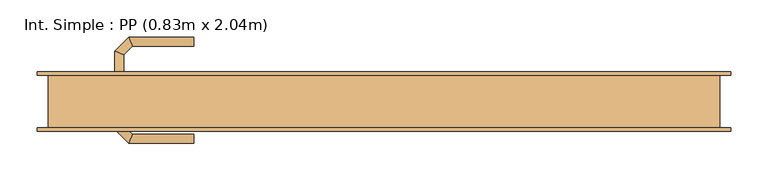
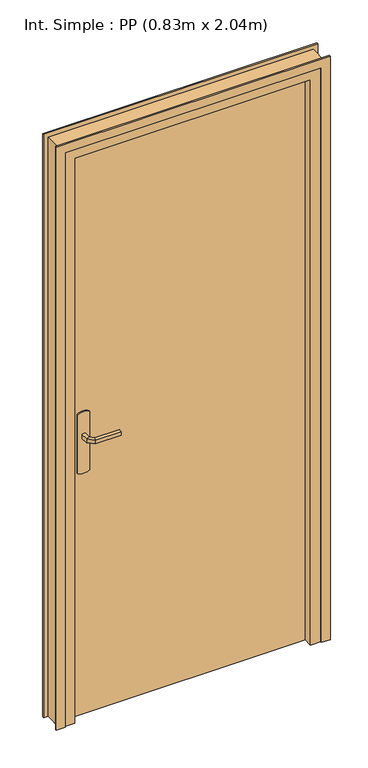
"""IFC4 building model written with IfcOpenShell, lengths in millimetres: door geometry, Int. Simple : PP (0.83m x 2.04m)."""

from ifc_helpers import new_model, si_unit, point, frame, frame_2d, origin, origin_with_axes, place, context, project, spatial, polyline, circle_curve, ellipse_curve, trimmed, segment, composite_curve, outline, extrude, faceted_brep, source, transform, mapped, element, save
from ifc_brep_helpers import plane_surface, cylinder_surface, advanced_brep


def int_simple_pp_0_83m_x_2_04m_a8378473(model_context):
    return source(origin(), model_context, "Body", "SolidModel", [
        extrude(outline(composite_curve([segment(trimmed(circle_curve(frame_2d((904.6410162, -390.0)), 40.0), [point((870.0, -410.0))], [point((870.0, -370.0))], False, "CARTESIAN"), True, "CONTINUOUS"), segment(polyline([(870.0, -370.0), (1080.0, -370.0)]), True, "CONTINUOUS"), segment(trimmed(circle_curve(frame_2d((1045.3589838, -390.0)), 40.0), [point((1080.0, -370.0))], [point((1080.0, -410.0))], False, "CARTESIAN"), True, "CONTINUOUS"), segment(polyline([(1080.0, -410.0), (870.0, -410.0)]), True, "CONTINUOUS")], self_intersect=False)), frame((0.0, 35.0, 0.0), z_axis=(0.0, 1.0, 0.0), x_axis=(0.0, 0.0, 1.0)), (0.0, 0.0, 1.0), 5.0),
        extrude(outline(composite_curve([segment(trimmed(circle_curve(frame_2d((1045.3589838, -390.0)), 40.0), [point((1080.0, -370.0))], [point((1080.0, -410.0))], False, "CARTESIAN"), True, "CONTINUOUS"), segment(polyline([(1080.0, -410.0), (870.0, -410.0)]), True, "CONTINUOUS"), segment(trimmed(circle_curve(frame_2d((904.6410162, -390.0)), 40.0), [point((870.0, -410.0))], [point((870.0, -370.0))], False, "CARTESIAN"), True, "CONTINUOUS"), segment(polyline([(870.0, -370.0), (1080.0, -370.0)]), True, "CONTINUOUS")], self_intersect=False)), frame((0.0, -10.0, 0.0), z_axis=(0.0, 1.0, 0.0), x_axis=(0.0, 0.0, 1.0)), (0.0, 0.0, 1.0), 5.0),
        advanced_brep(
        [(-396.0, 40.0, 1007.0), (-396.0, 40.0, 993.0), (-384.0, 40.0, 993.0), (-384.0, 40.0, 1007.0), (-384.0, 62.680388, 1007.0), (-396.0, 67.6509507, 1007.0), (-384.0, 62.680388, 993.0), (-396.0, 67.6509507, 993.0), (-372.6522273, 74.0281607, 1007.0), (-377.62279, 86.0281607, 1007.0), (-372.6522273, 74.0281607, 993.0), (-377.62279, 86.0281607, 993.0), (-289.9813594, 86.0281607, 1007.0), (-289.9813594, 74.0281607, 1007.0), (-289.9813594, 74.0281607, 993.0), (-289.9813594, 86.0281607, 993.0)],
        [
            (0, 1),
            (1, 2, circle_curve(frame((-390.0, 40.0, 1013.0457722), z_axis=(0.0, -1.0, 0.0), x_axis=(1.0, 0.0, 0.0)), 20.9244589)),
            (2, 3),
            (3, 0, circle_curve(frame((-390.0, 40.0, 986.9542278), z_axis=(0.0, -1.0, 0.0), x_axis=(1.0, 0.0, 0.0)), 20.9244589)),
            (3, 4),
            (4, 5, ellipse_curve(frame((-390.0, 65.1656693, 986.9542278), z_axis=(-0.3826834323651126, -0.9238795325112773, 0.0), x_axis=(0.9238795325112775, -0.38268343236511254, 0.0)), 22.6484711, 20.9244589)),
            (5, 0),
            (2, 6),
            (6, 4),
            (1, 7),
            (7, 6, ellipse_curve(frame((-390.0, 65.1656693, 1013.0457722), z_axis=(-0.3826834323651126, -0.9238795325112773, 0.0), x_axis=(0.9238795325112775, -0.38268343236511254, 0.0)), 22.6484711, 20.9244589)),
            (5, 7),
            (4, 8),
            (8, 9, ellipse_curve(frame((-375.1375086, 80.0281607, 986.9542278), z_axis=(-0.9238795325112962, -0.38268343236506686, 0.0), x_axis=(0.3826834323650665, -0.9238795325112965, 0.0)), 22.6484711, 20.9244589)),
            (9, 5),
            (6, 10),
            (10, 8),
            (7, 11),
            (11, 10, ellipse_curve(frame((-375.1375086, 80.0281607, 1013.0457722), z_axis=(-0.9238795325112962, -0.38268343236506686, 0.0), x_axis=(0.3826834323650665, -0.9238795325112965, 0.0)), 22.6484711, 20.9244589)),
            (9, 11),
            (12, 13, circle_curve(frame((-289.9813594, 80.0281607, 986.9542278), z_axis=(1.0, 0.0, 0.0), x_axis=(0.0, -1.0, 0.0)), 20.9244589)),
            (13, 14),
            (14, 15, circle_curve(frame((-289.9813594, 80.0281607, 1013.0457722), z_axis=(1.0, 0.0, 0.0), x_axis=(0.0, -1.0, 0.0)), 20.9244589)),
            (15, 12),
            (8, 13),
            (12, 9),
            (10, 14),
            (11, 15),
        ],
        [
            plane_surface(frame((-399.2195445, 40.0, 1000.0), z_axis=(0.0, -1.0, 0.0), x_axis=(0.0, 0.0, -1.0))),
            cylinder_surface(frame((-390.0, 40.0, 986.9542278), z_axis=(0.0, -1.0, 0.0), x_axis=(1.0, 0.0, 0.0)), 20.9244589),
            plane_surface(frame((-384.0, 40.0, 1007.0), z_axis=(1.0, 0.0, 0.0), x_axis=(0.0, 1.0, 0.0))),
            cylinder_surface(frame((-390.0, 40.0, 1013.0457722), z_axis=(0.0, -1.0, 0.0), x_axis=(1.0, 0.0, 0.0)), 20.9244589),
            plane_surface(frame((-396.0, 40.0, 993.0), z_axis=(-1.0, 0.0, 0.0), x_axis=(0.0, 1.0, 0.0))),
            cylinder_surface(frame((-390.0, 65.1656693, 986.9542278), z_axis=(-0.7071067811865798, -0.7071067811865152, 0.0), x_axis=(0.7071067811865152, -0.7071067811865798, 0.0)), 20.9244589),
            plane_surface(frame((-384.0, 62.680388, 1007.0), z_axis=(0.7071067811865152, -0.7071067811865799, 0.0), x_axis=(0.7071067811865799, 0.7071067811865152, 0.0))),
            cylinder_surface(frame((-390.0, 65.1656693, 1013.0457722), z_axis=(-0.7071067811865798, -0.7071067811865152, 0.0), x_axis=(0.7071067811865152, -0.7071067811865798, 0.0)), 20.9244589),
            plane_surface(frame((-396.0, 67.6509507, 993.0), z_axis=(-0.7071067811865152, 0.7071067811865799, 0.0), x_axis=(0.7071067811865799, 0.7071067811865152, 0.0))),
            plane_surface(frame((-289.9813594, 80.0281607, 990.7804555), z_axis=(1.0, 0.0, 0.0), x_axis=(0.0, -1.0, 0.0))),
            cylinder_surface(frame((-375.1375086, 80.0281607, 986.9542278), z_axis=(-1.0, 0.0, 0.0), x_axis=(0.0, -1.0, 0.0)), 20.9244589),
            plane_surface(frame((-372.6522273, 74.0281607, 1007.0), z_axis=(0.0, -1.0, 0.0), x_axis=(1.0, 0.0, 0.0))),
            cylinder_surface(frame((-375.1375086, 80.0281607, 1013.0457722), z_axis=(-1.0, 0.0, 0.0), x_axis=(0.0, -1.0, 0.0)), 20.9244589),
            plane_surface(frame((-377.62279, 86.0281607, 993.0), z_axis=(0.0, 1.0, 0.0), x_axis=(1.0, 0.0, 0.0))),
        ],
        [
            (0, [[1, 2, 3, 4]]),
            (1, [[5, 6, 7, -4]]),
            (2, [[8, 9, -5, -3]]),
            (3, [[10, 11, -8, -2]]),
            (4, [[-7, 12, -10, -1]]),
            (5, [[13, 14, 15, -6]]),
            (6, [[16, 17, -13, -9]]),
            (7, [[18, 19, -16, -11]]),
            (8, [[-15, 20, -18, -12]]),
            (9, [[21, 22, 23, 24]]),
            (10, [[25, -21, 26, -14]]),
            (11, [[27, -22, -25, -17]]),
            (12, [[28, -23, -27, -19]]),
            (13, [[-26, -24, -28, -20]]),
        ],
    ),
        advanced_brep(
        [(-384.0, -10.0, 993.0), (-396.0, -10.0, 993.0), (-396.0, -10.0, 1007.0), (-384.0, -10.0, 1007.0), (-384.0, -32.4852045, 1007.0), (-384.0, -32.4852045, 993.0), (-396.0, -37.4557673, 1007.0), (-396.0, -37.4557673, 993.0), (-372.5147186, -43.9704859, 1007.0), (-372.5147186, -43.9704859, 993.0), (-377.4852814, -55.9704859, 1007.0), (-377.4852814, -55.9704859, 993.0), (-289.9542163, -43.9704859, 993.0), (-289.9542163, -43.9704859, 1007.0), (-289.9542163, -55.9704859, 1007.0), (-289.9542163, -55.9704859, 993.0)],
        [
            (0, 1, circle_curve(frame((-390.0, -10.0, 1013.0457722), z_axis=(0.0, 1.0, 0.0), x_axis=(-1.0, 0.0, 0.0)), 20.9244589)),
            (1, 2),
            (2, 3, circle_curve(frame((-390.0, -10.0, 986.9542278), z_axis=(0.0, 1.0, 0.0), x_axis=(-1.0, 0.0, 0.0)), 20.9244589)),
            (3, 0),
            (3, 4),
            (4, 5),
            (5, 0),
            (2, 6),
            (6, 4, ellipse_curve(frame((-390.0, -34.9704859, 986.9542278), z_axis=(-0.3826834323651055, 0.9238795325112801, 0.0), x_axis=(0.9238795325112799, 0.3826834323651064, 0.0)), 22.6484711, 20.9244589)),
            (1, 7),
            (7, 6),
            (5, 7, ellipse_curve(frame((-390.0, -34.9704859, 1013.0457722), z_axis=(-0.3826834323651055, 0.9238795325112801, 0.0), x_axis=(0.9238795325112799, 0.3826834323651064, 0.0)), 22.6484711, 20.9244589)),
            (4, 8),
            (8, 9),
            (9, 5),
            (6, 10),
            (10, 8, ellipse_curve(frame((-375.0, -49.9704859, 986.9542278), z_axis=(-0.9238795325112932, 0.382683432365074, 0.0), x_axis=(0.3826834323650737, 0.9238795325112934, 0.0)), 22.6484711, 20.9244589)),
            (7, 11),
            (11, 10),
            (9, 11, ellipse_curve(frame((-375.0, -49.9704859, 1013.0457722), z_axis=(-0.9238795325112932, 0.382683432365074, 0.0), x_axis=(0.3826834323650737, 0.9238795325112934, 0.0)), 22.6484711, 20.9244589)),
            (12, 13),
            (13, 14, circle_curve(frame((-289.9542163, -49.9704859, 986.9542278), z_axis=(1.0, 0.0, 0.0), x_axis=(0.0, -1.0, 0.0)), 20.9244589)),
            (14, 15),
            (15, 12, circle_curve(frame((-289.9542163, -49.9704859, 1013.0457722), z_axis=(1.0, 0.0, 0.0), x_axis=(0.0, -1.0, 0.0)), 20.9244589)),
            (8, 13),
            (12, 9),
            (10, 14),
            (11, 15),
        ],
        [
            plane_surface(frame((-399.2195445, -10.0, 1000.0), z_axis=(0.0, 1.0, 0.0), x_axis=(0.0, 0.0, 1.0))),
            plane_surface(frame((-384.0, -10.0, 993.0), z_axis=(1.0, 0.0, 0.0), x_axis=(0.0, -1.0, 0.0))),
            cylinder_surface(frame((-390.0, -10.0, 986.9542278), z_axis=(0.0, 1.0, 0.0), x_axis=(-1.0, 0.0, 0.0)), 20.9244589),
            plane_surface(frame((-396.0, -10.0, 1007.0), z_axis=(-1.0, 0.0, 0.0), x_axis=(0.0, -1.0, 0.0))),
            cylinder_surface(frame((-390.0, -10.0, 1013.0457722), z_axis=(0.0, 1.0, 0.0), x_axis=(-1.0, 0.0, 0.0)), 20.9244589),
            plane_surface(frame((-384.0, -32.4852045, 993.0), z_axis=(0.7071067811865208, 0.7071067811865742, 0.0), x_axis=(0.7071067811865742, -0.7071067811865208, 0.0))),
            cylinder_surface(frame((-390.0, -34.9704859, 986.9542278), z_axis=(-0.7071067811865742, 0.7071067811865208, 0.0), x_axis=(-0.7071067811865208, -0.7071067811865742, 0.0)), 20.9244589),
            plane_surface(frame((-396.0, -37.4557673, 1007.0), z_axis=(-0.7071067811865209, -0.7071067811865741, 0.0), x_axis=(0.7071067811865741, -0.7071067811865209, 0.0))),
            cylinder_surface(frame((-390.0, -34.9704859, 1013.0457722), z_axis=(-0.7071067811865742, 0.7071067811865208, 0.0), x_axis=(-0.7071067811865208, -0.7071067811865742, 0.0)), 20.9244589),
            plane_surface(frame((-289.9542163, -49.9704859, 990.7804555), z_axis=(1.0, 0.0, 0.0), x_axis=(0.0, -1.0, 0.0))),
            plane_surface(frame((-372.5147186, -43.9704859, 993.0), z_axis=(0.0, 1.0, 0.0), x_axis=(1.0, 0.0, 0.0))),
            cylinder_surface(frame((-375.0, -49.9704859, 986.9542278), z_axis=(-1.0, 0.0, 0.0), x_axis=(0.0, -1.0, 0.0)), 20.9244589),
            plane_surface(frame((-377.4852814, -55.9704859, 1007.0), z_axis=(0.0, -1.0, 0.0), x_axis=(1.0, 0.0, 0.0))),
            cylinder_surface(frame((-375.0, -49.9704859, 1013.0457722), z_axis=(-1.0, 0.0, 0.0), x_axis=(0.0, -1.0, 0.0)), 20.9244589),
        ],
        [
            (0, [[1, 2, 3, 4]]),
            (1, [[5, 6, 7, -4]]),
            (2, [[8, 9, -5, -3]]),
            (3, [[10, 11, -8, -2]]),
            (4, [[-7, 12, -10, -1]]),
            (5, [[13, 14, 15, -6]]),
            (6, [[16, 17, -13, -9]]),
            (7, [[18, 19, -16, -11]]),
            (8, [[-15, 20, -18, -12]]),
            (9, [[21, 22, 23, 24]]),
            (10, [[25, -21, 26, -14]]),
            (11, [[27, -22, -25, -17]]),
            (12, [[28, -23, -27, -19]]),
            (13, [[-26, -24, -28, -20]]),
        ],
    ),
        extrude(outline(polyline([(-450.0, -5.0), (-450.0, 35.0), (380.0, 35.0), (380.0, -5.0), (-450.0, -5.0)])), origin_with_axes(), (0.0, 0.0, 1.0), 2040.0),
        faceted_brep([(-485.0, 35.0, 0.0), (-450.0, 35.0, 0.0), (-450.0, -5.0, 0.0), (-435.0, -5.0, 0.0), (-435.0, -35.0, 0.0), (-485.0, -35.0, 0.0), (-485.0, -35.0, 2075.0), (-485.0, 35.0, 2075.0), (-435.0, -35.0, 2025.0), (365.0, -35.0, 2025.0), (365.0, -35.0, 0.0), (415.0, -35.0, 0.0), (415.0, -35.0, 2075.0), (-435.0, -5.0, 2025.0), (-450.0, -5.0, 2040.0), (380.0, -5.0, 2040.0), (380.0, -5.0, 0.0), (365.0, -5.0, 0.0), (365.0, -5.0, 2025.0), (-450.0, 35.0, 2040.0), (415.0, 35.0, 2075.0), (415.0, 35.0, 0.0), (380.0, 35.0, 0.0), (380.0, 35.0, 2040.0)], [[[0, 1, 2, 3, 4, 5]], [[5, 6, 7, 0]], [[4, 8, 9, 10, 11, 12, 6, 5]], [[3, 13, 8, 4]], [[2, 14, 15, 16, 17, 18, 13, 3]], [[1, 19, 14, 2]], [[0, 7, 20, 21, 22, 23, 19, 1]], [[12, 11, 21, 20]], [[21, 11, 10, 17, 16, 22]], [[18, 17, 10, 9]], [[23, 22, 16, 15]], [[6, 12, 20, 7]], [[13, 18, 9, 8]], [[19, 23, 15, 14]]]),
        extrude(outline(polyline([(0.0, -470.0), (2060.0, -470.0), (2060.0, 400.0), (0.0, 400.0), (0.0, 430.0), (2090.0, 430.0), (2090.0, -500.0), (0.0, -500.0), (0.0, -470.0)])), frame((0.0, 35.0, 0.0), z_axis=(0.0, 1.0, 0.0), x_axis=(0.0, 0.0, 1.0)), (0.0, 0.0, 1.0), 5.0),
        extrude(outline(polyline([(0.0, -470.0), (2060.0, -470.0), (2060.0, 400.0), (0.0, 400.0), (0.0, 430.0), (2090.0, 430.0), (2090.0, -500.0), (0.0, -500.0), (0.0, -470.0)])), frame((0.0, -40.0, 0.0), z_axis=(0.0, 1.0, 0.0), x_axis=(0.0, 0.0, 1.0)), (0.0, 0.0, 1.0), 5.0),
    ])


if __name__ == "__main__":
    model = new_model("IFC4")
    model_context = context("Model", 3, world=origin())
    ifc_project = project(units=[si_unit("LENGTHUNIT", "METRE", prefix="MILLI")], contexts=[model_context])
    site = spatial("IfcSite", under=ifc_project)
    building = spatial("IfcBuilding", under=site)
    placement = place(None, origin())
    int_simple_pp_0_83m_x_2_04m_shape = int_simple_pp_0_83m_x_2_04m_a8378473(model_context)
    element("IfcDoor", 1, ObjectType="Int. Simple : PP (0.83m x 2.04m)", at=placement, inside=building, context=model_context, shape_type="MappedRepresentation", body=[
        mapped(int_simple_pp_0_83m_x_2_04m_shape, transform((0.0, 0.0, 0.0), x_axis=(1.0, 0.0, 0.0), y_axis=(0.0, 1.0, 0.0), z_axis=(0.0, 0.0, 1.0))),
    ])
    save(model, "model.ifc")
